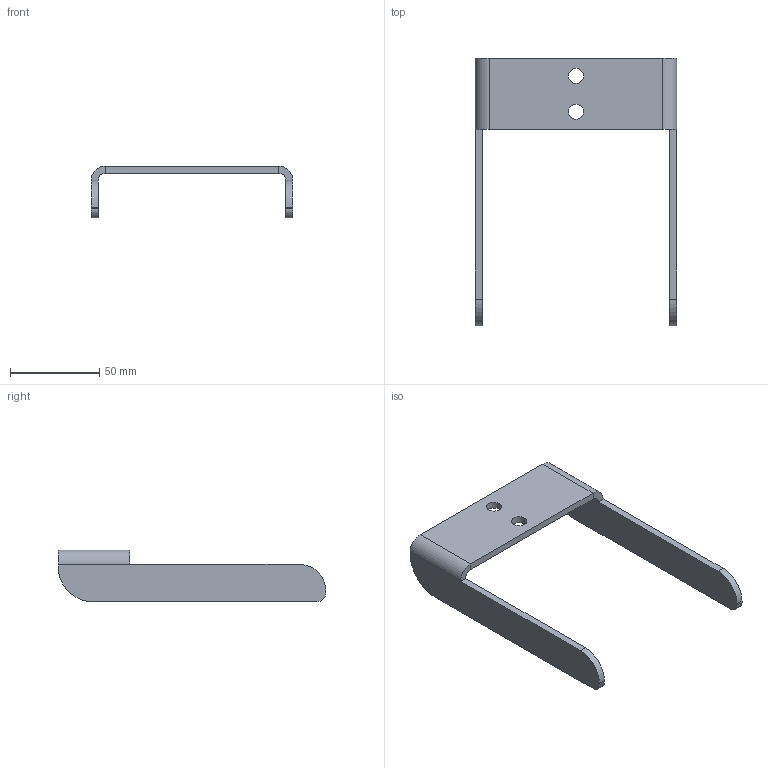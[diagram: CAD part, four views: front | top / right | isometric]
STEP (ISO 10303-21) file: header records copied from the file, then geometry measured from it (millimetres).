
FILE_DESCRIPTION (( 'STEP AP214' ), '1' );
FILE_NAME ('HOLD_150_2SIDE.STEP', '2023-07-19T13:48:56', ( '' ), ( '' ), 'SwSTEP 2.0', 'SolidWorks 2022', '' );
FILE_SCHEMA (( 'AUTOMOTIVE_DESIGN' ));
Length unit declared in the file: millimetre
Products named in the file (1): HOLD_150_2SIDE
Bounding box: 113 x 150 x 29 mm (x, y, z)
Volume: 42166 mm3; surface area: 24502.1 mm2
Topology: 1 solids, 1 shells, 34 faces, 80 edges, 48 vertices
Faces by surface type: plane 20, cylinder 14
Entity records: 1006 total; most frequent: DIRECTION 178, CARTESIAN_POINT 163, ORIENTED_EDGE 160, EDGE_CURVE 80, AXIS2_PLACEMENT_3D 63, VECTOR 52, LINE 52, VERTEX_POINT 48
